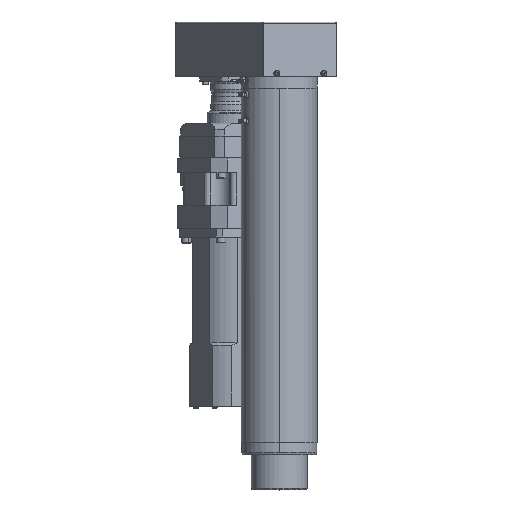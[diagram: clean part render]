
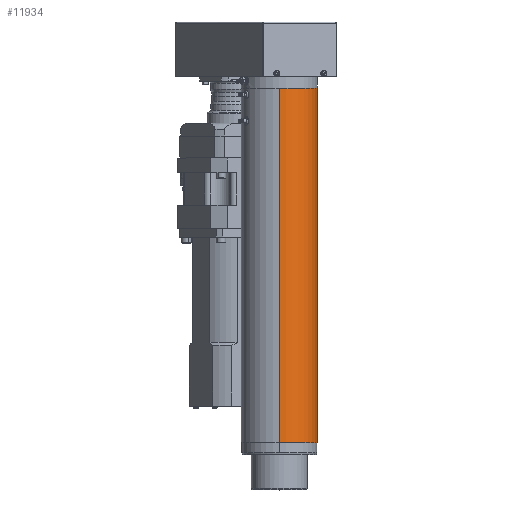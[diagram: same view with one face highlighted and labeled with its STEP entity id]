
A CAD part, top view. The second image highlights one B-rep face of the part: STEP entity #11934.
In plain terms, the highlighted cylindrical face has radius 64.5 mm (diameter 129 mm), a partial arc.
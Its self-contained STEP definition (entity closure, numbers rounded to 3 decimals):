
#1798 = DIRECTION ( 'NONE',  ( 0., -1., 0. ) ) ;
#2871 = EDGE_CURVE ( 'NONE', #44091, #39205, #51786, .T. ) ;
#3215 = CARTESIAN_POINT ( 'NONE',  ( 71.219, 422.121, 32.694 ) ) ;
#4812 = DIRECTION ( 'NONE',  ( 0., 0., -1. ) ) ;
#5177 = EDGE_CURVE ( 'NONE', #34115, #56649, #20073, .T. ) ;
#5595 = VECTOR ( 'NONE', #63824, 1000. ) ;
#6685 = CARTESIAN_POINT ( 'NONE',  ( 71.219, -198.379, 97.194 ) ) ;
#7232 = ORIENTED_EDGE ( 'NONE', *, *, #27098, .T. ) ;
#8070 = VECTOR ( 'NONE', #49402, 1000. ) ;
#9299 = CARTESIAN_POINT ( 'NONE',  ( 71.219, -198.379, 161.694 ) ) ;
#9983 = DIRECTION ( 'NONE',  ( 0., -1., 0. ) ) ;
#10952 = DIRECTION ( 'NONE',  ( 0., 0., -1. ) ) ;
#11934 = ADVANCED_FACE ( 'NONE', ( #17065 ), #61130, .T. ) ;
#12736 = AXIS2_PLACEMENT_3D ( 'NONE', #20778, #40676, #10952 ) ;
#12784 = ORIENTED_EDGE ( 'NONE', *, *, #5177, .F. ) ;
#17065 = FACE_OUTER_BOUND ( 'NONE', #27508, .T. ) ;
#17386 = AXIS2_PLACEMENT_3D ( 'NONE', #28563, #9983, #4812 ) ;
#20073 = CIRCLE ( 'NONE', #12736, 64.5 ) ;
#20152 = ORIENTED_EDGE ( 'NONE', *, *, #2871, .T. ) ;
#20778 = CARTESIAN_POINT ( 'NONE',  ( 71.219, -178.379, 97.194 ) ) ;
#25457 = CARTESIAN_POINT ( 'NONE',  ( 71.219, -178.379, 32.694 ) ) ;
#26780 = ORIENTED_EDGE ( 'NONE', *, *, #37903, .F. ) ;
#27098 = EDGE_CURVE ( 'NONE', #39205, #56649, #43899, .T. ) ;
#27508 = EDGE_LOOP ( 'NONE', ( #20152, #7232, #12784, #26780 ) ) ;
#28563 = CARTESIAN_POINT ( 'NONE',  ( 71.219, 422.121, 97.194 ) ) ;
#29205 = LINE ( 'NONE', #58900, #5595 ) ;
#32490 = AXIS2_PLACEMENT_3D ( 'NONE', #6685, #1798, #61456 ) ;
#34115 = VERTEX_POINT ( 'NONE', #25457 ) ;
#37903 = EDGE_CURVE ( 'NONE', #44091, #34115, #29205, .T. ) ;
#39205 = VERTEX_POINT ( 'NONE', #55689 ) ;
#40676 = DIRECTION ( 'NONE',  ( 0., -1., 0. ) ) ;
#43899 = LINE ( 'NONE', #9299, #8070 ) ;
#44091 = VERTEX_POINT ( 'NONE', #3215 ) ;
#45168 = CARTESIAN_POINT ( 'NONE',  ( 71.219, -178.379, 161.694 ) ) ;
#49402 = DIRECTION ( 'NONE',  ( 0., -1., 0. ) ) ;
#51786 = CIRCLE ( 'NONE', #17386, 64.5 ) ;
#55689 = CARTESIAN_POINT ( 'NONE',  ( 71.219, 422.121, 161.694 ) ) ;
#56649 = VERTEX_POINT ( 'NONE', #45168 ) ;
#58900 = CARTESIAN_POINT ( 'NONE',  ( 71.219, -198.379, 32.694 ) ) ;
#61130 = CYLINDRICAL_SURFACE ( 'NONE', #32490, 64.5 ) ;
#61456 = DIRECTION ( 'NONE',  ( 0., 0., -1. ) ) ;
#63824 = DIRECTION ( 'NONE',  ( 0., -1., 0. ) ) ;
